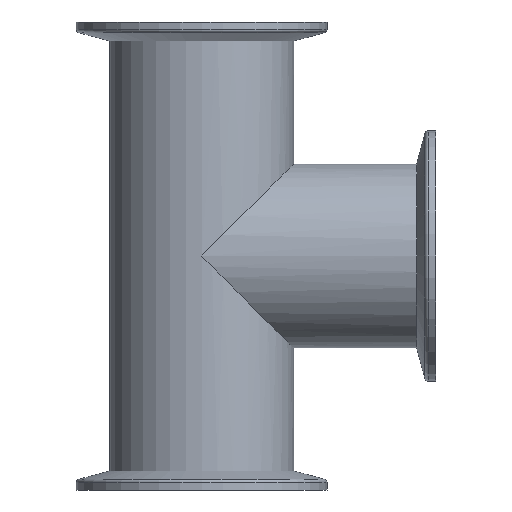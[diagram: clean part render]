
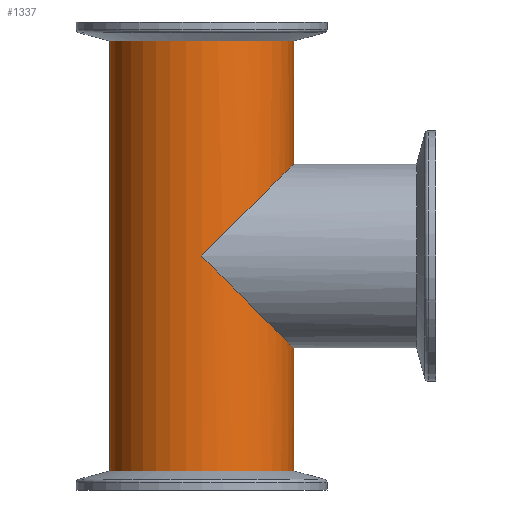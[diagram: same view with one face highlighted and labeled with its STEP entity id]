
A CAD part, front view. The second image highlights one B-rep face of the part: STEP entity #1337.
In plain terms, the highlighted cylindrical face has radius 27.5 mm (diameter 55 mm), a partial arc.
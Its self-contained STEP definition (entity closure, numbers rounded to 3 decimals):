
#8 = DIRECTION ( 'NONE',  ( 0., 0., 1. ) ) ;
#11 = CARTESIAN_POINT ( 'NONE',  ( 16.109, -27.5, -86.109 ) ) ;
#41 = VECTOR ( 'NONE', #1170, 1000. ) ;
#163 = CARTESIAN_POINT ( 'NONE',  ( 27.5, 0., -3.5 ) ) ;
#178 = EDGE_CURVE ( 'NONE', #282, #1395, #1697, .T. ) ;
#203 = VECTOR ( 'NONE', #1440, 1000. ) ;
#266 = CARTESIAN_POINT ( 'NONE',  ( 27.5, 0., -97.5 ) ) ;
#282 = VERTEX_POINT ( 'NONE', #1776 ) ;
#323 = CARTESIAN_POINT ( 'NONE',  ( 27.5, 0., -42.5 ) ) ;
#336 = CARTESIAN_POINT ( 'NONE',  ( 0., 0., -136.5 ) ) ;
#358 = EDGE_CURVE ( 'NONE', #1245, #1495, #1592, .T. ) ;
#421 =( BOUNDED_CURVE ( )  B_SPLINE_CURVE ( 3, ( #1311, #599, #1302, #323 ),
 .UNSPECIFIED., .F., .F. ) 
 B_SPLINE_CURVE_WITH_KNOTS ( ( 4, 4 ),
 ( 4.712, 6.283 ),
 .UNSPECIFIED. ) 
 CURVE ( )  GEOMETRIC_REPRESENTATION_ITEM ( )  RATIONAL_B_SPLINE_CURVE ( ( 1., 0.805, 0.805, 1. ) ) 
 REPRESENTATION_ITEM ( '' )  );
#422 = AXIS2_PLACEMENT_3D ( 'NONE', #1657, #8, #565 ) ;
#446 = DIRECTION ( 'NONE',  ( 0., 0., -1. ) ) ;
#504 = ORIENTED_EDGE ( 'NONE', *, *, #358, .T. ) ;
#559 = CARTESIAN_POINT ( 'NONE',  ( 0., -27.5, -70. ) ) ;
#565 = DIRECTION ( 'NONE',  ( 1., 0., 0. ) ) ;
#591 = VERTEX_POINT ( 'NONE', #1145 ) ;
#599 = CARTESIAN_POINT ( 'NONE',  ( 16.109, -27.5, -53.891 ) ) ;
#691 = AXIS2_PLACEMENT_3D ( 'NONE', #1273, #446, #1420 ) ;
#712 = EDGE_CURVE ( 'NONE', #1008, #1370, #852, .T. ) ;
#720 = CIRCLE ( 'NONE', #928, 27.5 ) ;
#760 = ORIENTED_EDGE ( 'NONE', *, *, #1503, .T. ) ;
#770 = CARTESIAN_POINT ( 'NONE',  ( 0., -27.5, -70. ) ) ;
#821 = ORIENTED_EDGE ( 'NONE', *, *, #1057, .T. ) ;
#852 = LINE ( 'NONE', #1173, #1575 ) ;
#928 = AXIS2_PLACEMENT_3D ( 'NONE', #336, #1182, #1298 ) ;
#1008 = VERTEX_POINT ( 'NONE', #1221 ) ;
#1022 = CYLINDRICAL_SURFACE ( 'NONE', #422, 27.5 ) ;
#1057 = EDGE_CURVE ( 'NONE', #1008, #591, #720, .T. ) ;
#1094 = CARTESIAN_POINT ( 'NONE',  ( 27.5, 0., -97.5 ) ) ;
#1110 = EDGE_CURVE ( 'NONE', #591, #1245, #1600, .T. ) ;
#1139 = ORIENTED_EDGE ( 'NONE', *, *, #1110, .T. ) ;
#1145 = CARTESIAN_POINT ( 'NONE',  ( 27.5, 0., -136.5 ) ) ;
#1170 = DIRECTION ( 'NONE',  ( 0., 0., 1. ) ) ;
#1173 = CARTESIAN_POINT ( 'NONE',  ( -27.5, 0., -214.282 ) ) ;
#1182 = DIRECTION ( 'NONE',  ( 0., 0., 1. ) ) ;
#1210 = ORIENTED_EDGE ( 'NONE', *, *, #1629, .T. ) ;
#1221 = CARTESIAN_POINT ( 'NONE',  ( -27.5, 0., -136.5 ) ) ;
#1245 = VERTEX_POINT ( 'NONE', #266 ) ;
#1273 = CARTESIAN_POINT ( 'NONE',  ( 0., 0., -3.5 ) ) ;
#1282 = ORIENTED_EDGE ( 'NONE', *, *, #178, .T. ) ;
#1290 = CARTESIAN_POINT ( 'NONE',  ( -27.5, 0., -3.5 ) ) ;
#1295 = ORIENTED_EDGE ( 'NONE', *, *, #712, .F. ) ;
#1298 = DIRECTION ( 'NONE',  ( 1., 0., 0. ) ) ;
#1302 = CARTESIAN_POINT ( 'NONE',  ( 27.5, -16.109, -42.5 ) ) ;
#1305 = CARTESIAN_POINT ( 'NONE',  ( 27.5, 0., -214.282 ) ) ;
#1311 = CARTESIAN_POINT ( 'NONE',  ( 0., -27.5, -70. ) ) ;
#1337 = ADVANCED_FACE ( 'NONE', ( #1458 ), #1022, .T. ) ;
#1370 = VERTEX_POINT ( 'NONE', #1290 ) ;
#1395 = VERTEX_POINT ( 'NONE', #163 ) ;
#1420 = DIRECTION ( 'NONE',  ( -1., 0., 0. ) ) ;
#1440 = DIRECTION ( 'NONE',  ( 0., 0., 1. ) ) ;
#1458 = FACE_OUTER_BOUND ( 'NONE', #1641, .T. ) ;
#1495 = VERTEX_POINT ( 'NONE', #770 ) ;
#1496 = CARTESIAN_POINT ( 'NONE',  ( 27.5, -16.109, -97.5 ) ) ;
#1503 = EDGE_CURVE ( 'NONE', #1495, #282, #421, .T. ) ;
#1564 = CARTESIAN_POINT ( 'NONE',  ( 27.5, 0., -214.282 ) ) ;
#1569 = DIRECTION ( 'NONE',  ( 0., 0., 1. ) ) ;
#1575 = VECTOR ( 'NONE', #1569, 1000. ) ;
#1592 =( BOUNDED_CURVE ( )  B_SPLINE_CURVE ( 3, ( #1094, #1496, #11, #559 ),
 .UNSPECIFIED., .F., .F. ) 
 B_SPLINE_CURVE_WITH_KNOTS ( ( 4, 4 ),
 ( 3.142, 4.712 ),
 .UNSPECIFIED. ) 
 CURVE ( )  GEOMETRIC_REPRESENTATION_ITEM ( )  RATIONAL_B_SPLINE_CURVE ( ( 1., 0.805, 0.805, 1. ) ) 
 REPRESENTATION_ITEM ( '' )  );
#1600 = LINE ( 'NONE', #1305, #203 ) ;
#1629 = EDGE_CURVE ( 'NONE', #1395, #1370, #1774, .T. ) ;
#1641 = EDGE_LOOP ( 'NONE', ( #1295, #821, #1139, #504, #760, #1282, #1210 ) ) ;
#1657 = CARTESIAN_POINT ( 'NONE',  ( 0., 0., -214.282 ) ) ;
#1697 = LINE ( 'NONE', #1564, #41 ) ;
#1774 = CIRCLE ( 'NONE', #691, 27.5 ) ;
#1776 = CARTESIAN_POINT ( 'NONE',  ( 27.5, 0., -42.5 ) ) ;
